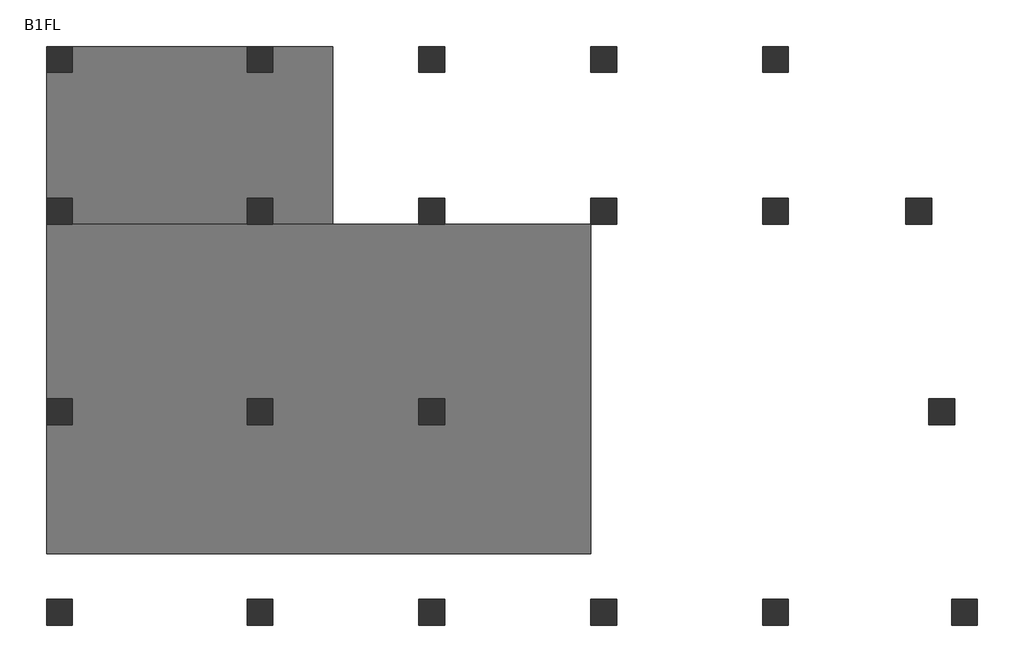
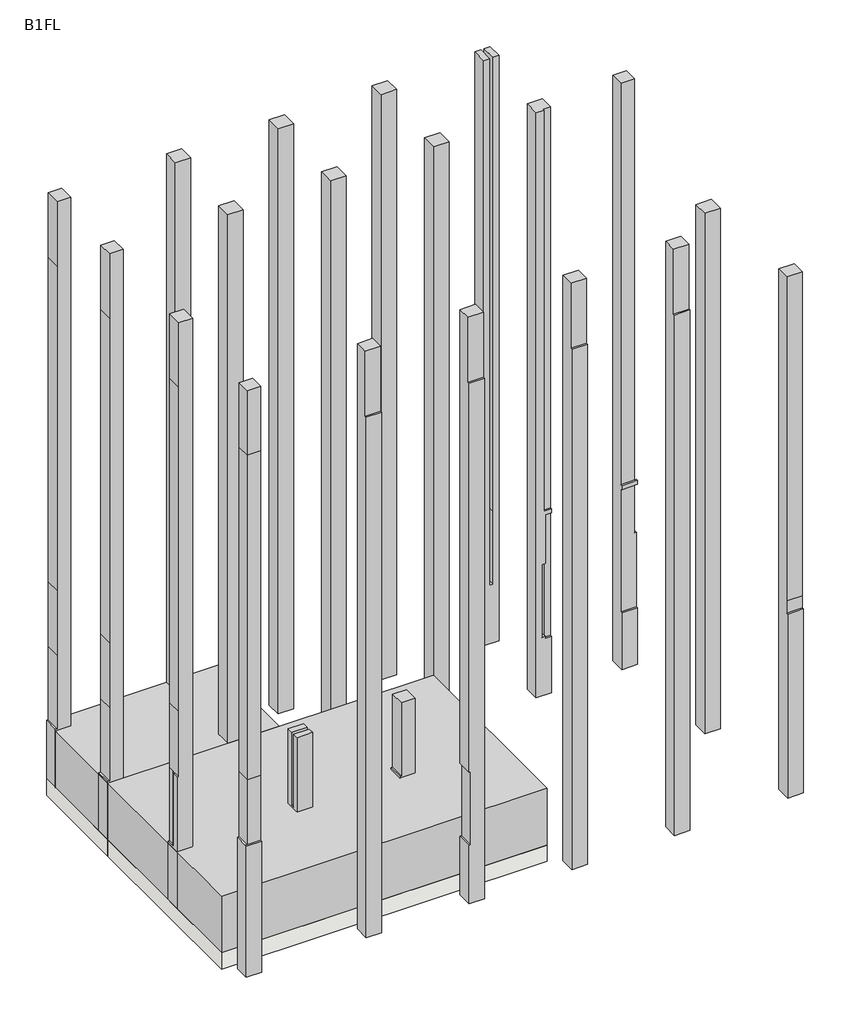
# One storey: 21 columns, 2 proxies, 2 slabs.
"""IFC4 building model written with IfcOpenShell, lengths in millimetres."""

from ifc_helpers import new_model, si_unit, frame, origin, place, context, project, spatial, polyline, outline, extrude, faceted_brep, transform, mapped, element, save
from components import column_900x900_790a040f, column_900x900_9fb1827b

model = new_model("IFC4")

# Units and contexts
model_context = context("Model", 3, world=origin())
ifc_project = project(units=[si_unit("LENGTHUNIT", "METRE", prefix="MILLI")], contexts=[model_context])

# Site, building, storey
site = spatial("IfcSite", under=ifc_project)
building = spatial("IfcBuilding", under=site)
storey = spatial("IfcBuildingStorey", under=building, Name="B1FL", Elevation=-3500.0)

# Proxies
placement = place(None, origin())
element("IfcBuildingElementProxy", 1, Name="i_共用9 : i_共用9", ObjectType="i_共用9 : i_共用9", at=placement, inside=storey, context=model_context, shape_type="SweptSolid", body=[
    extrude(outline(polyline([(-18845.9784025, 16649.6868987), (-18845.9784025, 10449.6868987), (-28845.9784025, 10449.6868987), (-28845.9784025, 16649.6868987), (-18845.9784025, 16649.6868987)])), frame((0.0, 0.0, -3500.0), z_axis=(0.0, 0.0, 1.0), x_axis=(1.0, 0.0, 0.0)), (0.0, 0.0, 1.0), 3500.0),
])
element("IfcBuildingElementProxy", 2, Name="i_共用10 : i_共用10", ObjectType="i_共用10 : i_共用10", at=placement, inside=storey, context=model_context, shape_type="SweptSolid", body=[
    extrude(outline(polyline([(-9845.9784025, 10449.6868987), (-9845.9784025, -1050.3131013), (-28845.9784025, -1050.3131013), (-28845.9784025, 10449.6868987), (-9845.9784025, 10449.6868987)])), frame((0.0, 0.0, -3500.0), z_axis=(0.0, 0.0, 1.0), x_axis=(1.0, 0.0, 0.0)), (0.0, 0.0, 1.0), 3500.0),
])

# Columns
element("IfcColumn", 3, ObjectType="r 矩形柱 : 900x900", at=placement, inside=storey, context=model_context, shape_type="SweptSolid", body=[
    extrude(outline(polyline([(-3500.0, -28845.9784025), (-3500.0, -27945.9784025), (32600.0, -27945.9784025), (32600.0, -28745.9784025), (28600.0, -28745.9784025), (8600.0, -28745.9784025), (4600.0, -28745.9784025), (100.0, -28745.9784025), (100.0, -28845.9784025), (-3500.0, -28845.9784025)])), frame((0.0, 15749.6868987, 0.0), z_axis=(0.0, 1.0, 0.0), x_axis=(0.0, 0.0, 1.0)), (0.0, 0.0, 1.0), 900.0),
])
element("IfcColumn", 4, ObjectType="r 矩形柱 : 900x900", at=placement, inside=storey, context=model_context, shape_type="SweptSolid", body=[
    extrude(outline(polyline([(-3500.0, -28845.9784025), (-3500.0, -27945.9784025), (32600.0, -27945.9784025), (32600.0, -28745.9784025), (28600.0, -28745.9784025), (8600.0, -28745.9784025), (4600.0, -28745.9784025), (100.0, -28745.9784025), (100.0, -28845.9784025), (-3500.0, -28845.9784025)])), frame((0.0, 10449.6868987, 0.0), z_axis=(0.0, 1.0, 0.0), x_axis=(0.0, 0.0, 1.0)), (0.0, 0.0, 1.0), 900.0),
])
element("IfcColumn", 5, ObjectType="r 矩形柱 : 900x900", at=placement, inside=storey, context=model_context, shape_type="Brep", body=[
    faceted_brep([(-27945.9784025, 3449.6868987, 32600.0), (-27945.9784025, 4349.6868987, 32600.0), (-28745.9784025, 4349.6868987, 32600.0), (-28745.9784025, 3449.6868987, 32600.0), (-27945.9784025, 3449.6868987, -3500.0), (-28845.9784025, 3449.6868987, -3500.0), (-28845.9784025, 4349.6868987, -3500.0), (-27945.9784025, 4349.6868987, -3500.0), (-27945.9784025, 3799.6868987, 100.0), (-27945.9784025, 3799.6868987, 4600.0), (-27945.9784025, 3999.6868987, 4600.0), (-27945.9784025, 3999.6868987, 100.0), (-28845.9784025, 4349.6868987, 100.0), (-28745.9784025, 4349.6868987, 100.0), (-28745.9784025, 4349.6868987, 4600.0), (-28745.9784025, 4349.6868987, 8600.0), (-28745.9784025, 4349.6868987, 28600.0), (-28745.9784025, 3449.6868987, 28600.0), (-28745.9784025, 3449.6868987, 8600.0), (-28745.9784025, 3449.6868987, 4600.0), (-28845.9784025, 3449.6868987, 4600.0), (-28845.9784025, 3799.6868987, 100.0), (-28845.9784025, 3799.6868987, 4600.0), (-28745.9784025, 3799.6868987, 4600.0), (-28745.9784025, 3999.6868987, 4600.0), (-28745.9784025, 3999.6868987, 100.0), (-28845.9784025, 3999.6868987, 100.0)], [[[0, 1, 2, 3]], [[4, 5, 6, 7]], [[1, 0, 4, 7], [8, 9, 10, 11]], [[7, 6, 12, 13, 14, 15, 16, 2, 1]], [[5, 4, 0, 3, 17, 18, 19, 20]], [[9, 8, 21, 22, 23]], [[11, 10, 24, 25]], [[8, 11, 25, 26, 21]], [[10, 9, 23, 24]], [[13, 25, 24, 14]], [[25, 13, 12, 26]], [[23, 19, 18, 15, 14, 24]], [[19, 23, 22, 20]], [[6, 5, 20, 22, 21, 26, 12]], [[16, 15, 18, 17]], [[3, 2, 16, 17]]]),
])
element("IfcColumn", 6, ObjectType="r 矩形柱 : 900x900", at=placement, inside=storey, context=model_context, shape_type="Brep", body=[
    faceted_brep([(-27945.9784025, -3450.3131013, 32600.0), (-27945.9784025, -2650.3131013, 32600.0), (-28745.9784025, -2650.3131013, 32600.0), (-28745.9784025, -3450.3131013, 32600.0), (-27945.9784025, -3550.3131013, -3500.0), (-28845.9784025, -3550.3131013, -3500.0), (-28845.9784025, -2650.3131013, -3500.0), (-27945.9784025, -2650.3131013, -3500.0), (-27945.9784025, -3450.3131013, 28600.0), (-27945.9784025, -3450.3131013, 8600.0), (-27945.9784025, -3450.3131013, 4600.0), (-27945.9784025, -3550.3131013, 4600.0), (-28845.9784025, -2650.3131013, 4600.0), (-28745.9784025, -2650.3131013, 4600.0), (-28745.9784025, -2650.3131013, 8600.0), (-28745.9784025, -2650.3131013, 28600.0), (-28745.9784025, -3450.3131013, 28600.0), (-28745.9784025, -3450.3131013, 8600.0), (-28845.9784025, -3550.3131013, 4600.0), (-28745.9784025, -3450.3131013, 4600.0), (-28845.9784025, -3450.3131013, 4600.0)], [[[0, 1, 2, 3]], [[4, 5, 6, 7]], [[4, 7, 1, 0, 8, 9, 10, 11]], [[7, 6, 12, 13, 14, 15, 2, 1]], [[9, 8, 16, 17]], [[5, 4, 11, 18]], [[8, 0, 3, 16]], [[10, 9, 17, 19]], [[11, 10, 19, 20, 18]], [[13, 19, 17, 14]], [[19, 13, 12, 20]], [[6, 5, 18, 20, 12]], [[15, 14, 17, 16]], [[3, 2, 15, 16]]]),
])
element("IfcColumn", 7, ObjectType="r 矩形柱 : 900x900", at=placement, inside=storey, context=model_context, shape_type="SweptSolid", body=[
    extrude(outline(polyline([(-20945.9784025, 15749.6868987), (-21845.9784025, 15749.6868987), (-21845.9784025, 16649.6868987), (-20945.9784025, 16649.6868987), (-20945.9784025, 15749.6868987)])), frame((0.0, 0.0, -3500.0), z_axis=(0.0, 0.0, 1.0), x_axis=(1.0, 0.0, 0.0)), (0.0, 0.0, 1.0), 36100.0),
])
element("IfcColumn", 8, ObjectType="r 矩形柱 : 900x900", at=placement, inside=storey, context=model_context, shape_type="SweptSolid", body=[
    extrude(outline(polyline([(4349.6868987, -3500.0), (3449.6868987, -3500.0), (3449.6868987, 4600.0), (3799.6868987, 4600.0), (3799.6868987, 100.0), (3999.6868987, 100.0), (3999.6868987, 4600.0), (4349.6868987, 4600.0), (4349.6868987, -3500.0)])), frame((-21845.9784025, 0.0, 0.0), z_axis=(1.0, 0.0, 0.0), x_axis=(0.0, 1.0, 0.0)), (0.0, 0.0, 1.0), 900.0),
])
element("IfcColumn", 9, ObjectType="r 矩形柱 : 900x900", at=placement, inside=storey, context=model_context, shape_type="SweptSolid", body=[
    extrude(outline(polyline([(-2650.3131013, -3500.0), (-3550.3131013, -3500.0), (-3550.3131013, 28600.0), (-3450.3131013, 28600.0), (-3450.3131013, 32600.0), (-2650.3131013, 32600.0), (-2650.3131013, -3500.0)])), frame((-21845.9784025, 0.0, 0.0), z_axis=(1.0, 0.0, 0.0), x_axis=(0.0, 1.0, 0.0)), (0.0, 0.0, 1.0), 900.0),
])
element("IfcColumn", 10, ObjectType="r 矩形柱 : 900x900", at=placement, inside=storey, context=model_context, shape_type="SweptSolid", body=[
    extrude(outline(polyline([(-14945.9784025, 15749.6868987), (-15845.9784025, 15749.6868987), (-15845.9784025, 16649.6868987), (-14945.9784025, 16649.6868987), (-14945.9784025, 15749.6868987)])), frame((0.0, 0.0, -3500.0), z_axis=(0.0, 0.0, 1.0), x_axis=(1.0, 0.0, 0.0)), (0.0, 0.0, 1.0), 36100.0),
])
element("IfcColumn", 11, ObjectType="r 矩形柱 : 900x900", at=placement, inside=storey, context=model_context, shape_type="SweptSolid", body=[
    extrude(outline(polyline([(-14945.9784025, 10449.6868987), (-15845.9784025, 10449.6868987), (-15845.9784025, 11349.6868987), (-14945.9784025, 11349.6868987), (-14945.9784025, 10449.6868987)])), frame((0.0, 0.0, -3500.0), z_axis=(0.0, 0.0, 1.0), x_axis=(1.0, 0.0, 0.0)), (0.0, 0.0, 1.0), 36100.0),
])
element("IfcColumn", 12, ObjectType="r 矩形柱 : 900x900", at=placement, inside=storey, context=model_context, shape_type="SweptSolid", body=[
    extrude(outline(polyline([(-3500.0, -15845.9784025), (-3500.0, -14945.9784025), (4600.0, -14945.9784025), (4600.0, -15745.9784025), (100.0, -15745.9784025), (100.0, -15845.9784025), (-3500.0, -15845.9784025)])), frame((0.0, 3449.6868987, 0.0), z_axis=(0.0, 1.0, 0.0), x_axis=(0.0, 0.0, 1.0)), (0.0, 0.0, 1.0), 900.0),
])
element("IfcColumn", 13, ObjectType="r 矩形柱 : 900x900", at=placement, inside=storey, context=model_context, shape_type="Brep", body=[
    faceted_brep([(-14945.9784025, -2650.3131013, 32600.0), (-15845.9784025, -2650.3131013, 32600.0), (-15845.9784025, -3450.3131013, 32600.0), (-14945.9784025, -3450.3131013, 32600.0), (-14945.9784025, -3550.3131013, -3500.0), (-15845.9784025, -3550.3131013, -3500.0), (-15845.9784025, -2650.3131013, -3500.0), (-14945.9784025, -2650.3131013, -3500.0), (-14945.9784025, -3450.3131013, 28600.0), (-14945.9784025, -3550.3131013, 28600.0), (-15845.9784025, -2650.3131013, 100.0), (-15745.9784025, -2650.3131013, 100.0), (-15745.9784025, -2650.3131013, 4600.0), (-15845.9784025, -2650.3131013, 4600.0), (-15845.9784025, -3550.3131013, 4600.0), (-15845.9784025, -3550.3131013, 28600.0), (-15845.9784025, -3450.3131013, 28600.0), (-15745.9784025, -3550.3131013, 4600.0), (-15745.9784025, -3550.3131013, 100.0), (-15845.9784025, -3550.3131013, 100.0)], [[[0, 1, 2, 3]], [[4, 5, 6, 7]], [[4, 7, 0, 3, 8, 9]], [[1, 0, 7, 6, 10, 11, 12, 13]], [[2, 1, 13, 14, 15, 16]], [[5, 4, 9, 15, 14, 17, 18, 19]], [[16, 8, 3, 2]], [[8, 16, 15, 9]], [[11, 18, 17, 12]], [[18, 11, 10, 19]], [[12, 17, 14, 13]], [[6, 5, 19, 10]]]),
])
element("IfcColumn", 14, ObjectType="r 矩形柱 : 900x900", at=placement, inside=storey, context=model_context, shape_type="SweptSolid", body=[
    extrude(outline(polyline([(-8945.9784025, 15749.6868987), (-9845.9784025, 15749.6868987), (-9845.9784025, 16649.6868987), (-8945.9784025, 16649.6868987), (-8945.9784025, 15749.6868987)])), frame((0.0, 0.0, -3500.0), z_axis=(0.0, 0.0, 1.0), x_axis=(1.0, 0.0, 0.0)), (0.0, 0.0, 1.0), 36100.0),
])
element("IfcColumn", 15, ObjectType="r 矩形柱 : 900x900", at=placement, inside=storey, context=model_context, shape_type="SweptSolid", body=[
    extrude(outline(polyline([(-2650.3131013, -3500.0), (-3550.3131013, -3500.0), (-3550.3131013, 28600.0), (-3450.3131013, 28600.0), (-3450.3131013, 32600.0), (-2650.3131013, 32600.0), (-2650.3131013, -3500.0)])), frame((-9845.9784025, 0.0, 0.0), z_axis=(1.0, 0.0, 0.0), x_axis=(0.0, 1.0, 0.0)), (0.0, 0.0, 1.0), 900.0),
])
element("IfcColumn", 16, ObjectType="r 矩形柱 : 900x900", at=placement, inside=storey, context=model_context, shape_type="SweptSolid", body=[
    extrude(outline(polyline([(-3500.0, -3845.9784025), (-3500.0, -2945.9784025), (32600.0, -2945.9784025), (32600.0, -3295.9784025), (4600.0, -3295.9784025), (100.0, -3295.9784025), (100.0, -3495.9784025), (4600.0, -3495.9784025), (32600.0, -3495.9784025), (32600.0, -3845.9784025), (-3500.0, -3845.9784025)])), frame((0.0, 15749.6868987, 0.0), z_axis=(0.0, 1.0, 0.0), x_axis=(0.0, 0.0, 1.0)), (0.0, 0.0, 1.0), 900.0),
])
element("IfcColumn", 17, ObjectType="r 矩形柱 : 900x900", at=placement, inside=storey, context=model_context, shape_type="Brep", body=[
    faceted_brep([(-2945.9784025, 11349.6868987, 32600.0), (-3295.9784025, 11349.6868987, 32600.0), (-3495.9784025, 11349.6868987, 32600.0), (-3845.9784025, 11349.6868987, 32600.0), (-3845.9784025, 10449.6868987, 32600.0), (-3395.9784025, 10449.6868987, 32600.0), (-3395.9784025, 10549.6868987, 32600.0), (-2945.9784025, 10549.6868987, 32600.0), (-2945.9784025, 10449.6868987, -3500.0), (-3845.9784025, 10449.6868987, -3500.0), (-3845.9784025, 11349.6868987, -3500.0), (-2945.9784025, 11349.6868987, -3500.0), (-2945.9784025, 10549.6868987, 7850.0), (-2945.9784025, 10449.6868987, 7850.0), (-2945.9784025, 10449.6868987, 7600.0), (-2945.9784025, 10549.6868987, 7600.0), (-2945.9784025, 10549.6868987, 0.0), (-2945.9784025, 10449.6868987, 0.0), (-3295.9784025, 11349.6868987, 100.0), (-3295.9784025, 11349.6868987, 4600.0), (-3495.9784025, 11349.6868987, 4600.0), (-3495.9784025, 11349.6868987, 100.0), (-3295.9784025, 10449.6868987, 0.0), (-3295.9784025, 10449.6868987, 100.0), (-3495.9784025, 10449.6868987, 100.0), (-3495.9784025, 10449.6868987, 4600.0), (-3295.9784025, 10449.6868987, 4600.0), (-3295.9784025, 10449.6868987, 7600.0), (-3395.9784025, 10449.6868987, 7850.0), (-3395.9784025, 10549.6868987, 7850.0), (-3295.9784025, 10549.6868987, 100.0), (-3295.9784025, 10549.6868987, 4600.0), (-3295.9784025, 10549.6868987, 7600.0), (-3295.9784025, 10549.6868987, 0.0)], [[[0, 1, 2, 3, 4, 5, 6, 7]], [[8, 9, 10, 11]], [[8, 11, 0, 7, 12, 13, 14, 15, 16, 17]], [[3, 2, 1, 0, 11, 10], [18, 19, 20, 21]], [[4, 3, 10, 9]], [[9, 8, 17, 22, 23, 24, 25, 26, 27, 14, 13, 28, 5, 4]], [[6, 29, 12, 7]], [[12, 29, 28, 13]], [[29, 6, 5, 28]], [[19, 18, 30, 31]], [[21, 20, 25, 24]], [[18, 21, 24, 23, 30]], [[20, 19, 31, 26, 25]], [[32, 31, 30, 33, 16, 15]], [[16, 33, 22, 17]], [[32, 15, 14, 27]], [[33, 30, 23, 22]], [[31, 32, 27, 26]]]),
])
element("IfcColumn", 18, ObjectType="r 矩形柱 : 900x900", at=placement, inside=storey, context=model_context, shape_type="SweptSolid", body=[
    extrude(outline(polyline([(-2650.3131013, -3500.0), (-3550.3131013, -3500.0), (-3550.3131013, 28600.0), (-3450.3131013, 28600.0), (-3450.3131013, 32600.0), (-2650.3131013, 32600.0), (-2650.3131013, -3500.0)])), frame((-3845.9784025, 0.0, 0.0), z_axis=(1.0, 0.0, 0.0), x_axis=(0.0, 1.0, 0.0)), (0.0, 0.0, 1.0), 900.0),
])
element("IfcColumn", 19, ObjectType="r 矩形柱 : 900x900", at=placement, inside=storey, context=model_context, shape_type="Brep", body=[
    faceted_brep([(1154.0215975, 11349.6868987, 32600.0), (1154.0215975, 10549.6868987, 32600.0), (1954.0215975, 10549.6868987, 32600.0), (1954.0215975, 11349.6868987, 32600.0), (2054.0215975, 10449.6868987, -3500.0), (1154.0215975, 10449.6868987, -3500.0), (1154.0215975, 11349.6868987, -3500.0), (2054.0215975, 11349.6868987, -3500.0), (2054.0215975, 10549.6868987, 7850.0), (2054.0215975, 10449.6868987, 7850.0), (2054.0215975, 10449.6868987, 7600.0), (2054.0215975, 10549.6868987, 7600.0), (1954.0215975, 11349.6868987, 4600.0), (2054.0215975, 11349.6868987, 4600.0), (1154.0215975, 10449.6868987, 0.0), (1154.0215975, 10549.6868987, 0.0), (1154.0215975, 10549.6868987, 7600.0), (1154.0215975, 10449.6868987, 7600.0), (1154.0215975, 10449.6868987, 7850.0), (1154.0215975, 10549.6868987, 7850.0), (1954.0215975, 10549.6868987, 7850.0), (1954.0215975, 10549.6868987, 4600.0), (1954.0215975, 10549.6868987, 7600.0), (2054.0215975, 10549.6868987, 4600.0), (2054.0215975, 10549.6868987, 0.0), (2054.0215975, 10449.6868987, 0.0)], [[[0, 1, 2, 3]], [[4, 5, 6, 7]], [[8, 9, 10, 11]], [[7, 6, 0, 3, 12, 13]], [[6, 5, 14, 15, 16, 17, 18, 19, 1, 0]], [[9, 18, 17, 10]], [[1, 19, 20, 2]], [[9, 8, 20, 19, 18]], [[21, 12, 3, 2, 20, 22]], [[12, 21, 23, 13]], [[20, 8, 11, 22]], [[15, 24, 23, 21, 22, 16]], [[24, 15, 14, 25]], [[16, 22, 11, 10, 17]], [[4, 7, 13, 23, 24, 25]], [[5, 4, 25, 14]]]),
])
element("IfcColumn", 20, ObjectType="r 矩形柱 : 900x900", at=placement, inside=storey, context=model_context, shape_type="SweptSolid", body=[
    extrude(outline(polyline([(-2650.3131013, -3500.0), (-3550.3131013, -3500.0), (-3550.3131013, 7850.0), (-3450.3131013, 7850.0), (-3450.3131013, 8600.0), (-3450.3131013, 28600.0), (-2650.3131013, 28600.0), (-2650.3131013, -3500.0)])), frame((2754.0215975, 0.0, 0.0), z_axis=(1.0, 0.0, 0.0), x_axis=(0.0, 1.0, 0.0)), (0.0, 0.0, 1.0), 900.0),
])
column_900x900_shape = column_900x900_790a040f(model_context)
element("IfcColumn", 21, ObjectType="r 矩形柱 : 900x900", at=placement, inside=storey, context=model_context, shape_type="MappedRepresentation", body=[
    mapped(column_900x900_shape, transform((-21395.9784025, 10899.6868987, 0.0), x_axis=(1.0, 0.0, 0.0), y_axis=(0.0, 1.0, 0.0), z_axis=(0.0, 0.0, 1.0))),
])
element("IfcColumn", 22, ObjectType="r 矩形柱 : 900x900", at=placement, inside=storey, context=model_context, shape_type="MappedRepresentation", body=[
    mapped(column_900x900_shape, transform((-9395.9784025, 10899.6868987, 0.0), x_axis=(1.0, 0.0, 0.0), y_axis=(0.0, 1.0, 0.0), z_axis=(0.0, 0.0, 1.0))),
])
column_900x900_2_shape = column_900x900_9fb1827b(model_context)
element("IfcColumn", 23, ObjectType="r 矩形柱 : 900x900", at=placement, inside=storey, context=model_context, shape_type="MappedRepresentation", body=[
    mapped(column_900x900_2_shape, transform((2404.0215975, 3899.6868987, 0.0), x_axis=(1.0, 0.0, 0.0), y_axis=(0.0, 1.0, 0.0), z_axis=(0.0, 0.0, 1.0))),
])

# Slabs
element("IfcSlab", 24, ObjectType="企画1000", at=placement, inside=storey, context=model_context, shape_type="SweptSolid", body=[
    extrude(outline(polyline([(-18845.9784025, 16649.6868987), (-18845.9784025, 10449.6868987), (-28845.9784025, 10449.6868987), (-28845.9784025, 16649.6868987), (-18845.9784025, 16649.6868987)])), frame((0.0, 0.0, -4500.0), z_axis=(0.0, 0.0, 1.0), x_axis=(1.0, 0.0, 0.0)), (0.0, 0.0, 1.0), 1000.0),
])
element("IfcSlab", 25, ObjectType="企画1000", at=placement, inside=storey, context=model_context, shape_type="SweptSolid", body=[
    extrude(outline(polyline([(-9845.9784025, 10449.6868987), (-9845.9784025, -1050.3131013), (-28845.9784025, -1050.3131013), (-28845.9784025, 10449.6868987), (-9845.9784025, 10449.6868987)])), frame((0.0, 0.0, -4500.0), z_axis=(0.0, 0.0, 1.0), x_axis=(1.0, 0.0, 0.0)), (0.0, 0.0, 1.0), 1000.0),
])

save(model, "model.ifc")
